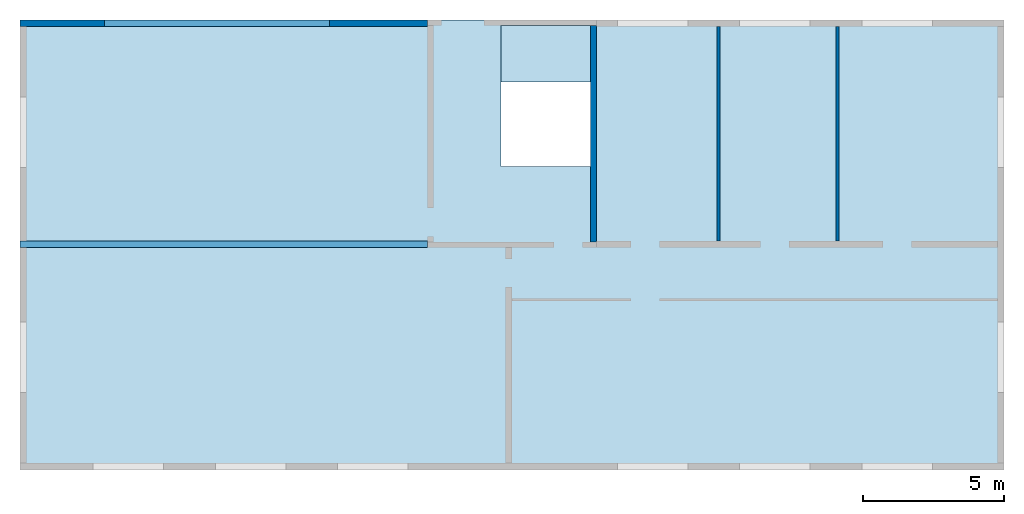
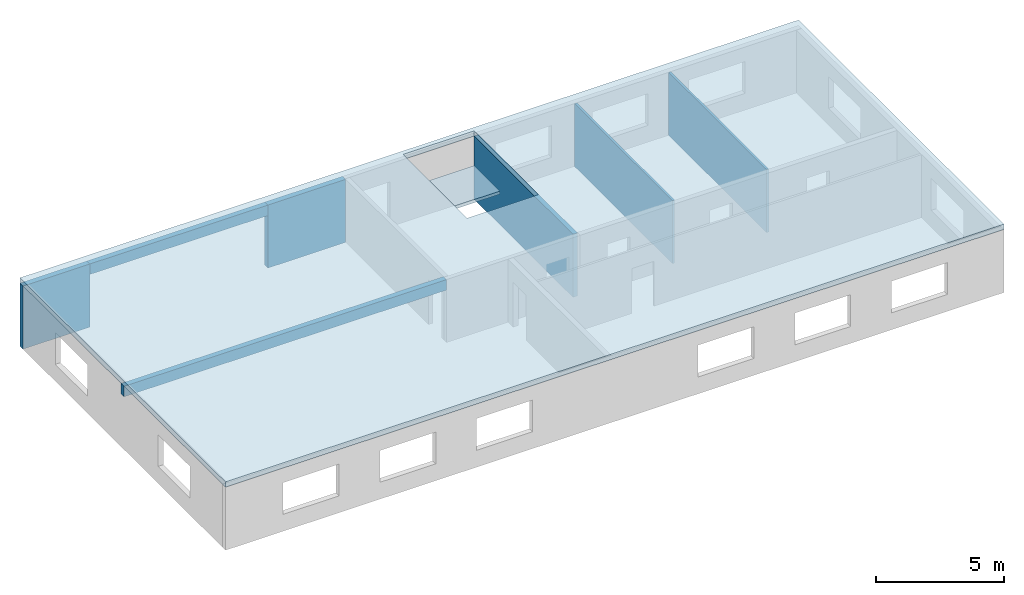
# One storey, incomplete: 5 walls, 2 beams, 2 slabs, 1 opening.
"""IFC4 building model written with IfcOpenShell, lengths in metres."""

from ifc_helpers import new_model, entity, si_unit, converted_unit, frame, origin_with_axes, origin_2d_with_axis, place, context, subcontext, project, spatial, line, indexed_curve, rectangle, outline, extrude, polygons, material, layer, layer_set, layer_usage, material_profile, profile_set, profile_usage, type_object, element, save


model = new_model("IFC4")

# Units and contexts
model_context = context("Model", 3, precision=1e-05, world=origin_with_axes())
plan_context = context("Plan", 2, precision=1e-05, world=origin_2d_with_axis())
body_context = subcontext(model_context, "Body", "Model", "MODEL_VIEW")
ifc_project = project(units=[converted_unit("PLANEANGLEUNIT", "degree", entity("IfcReal", 0.0174532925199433), si_unit("PLANEANGLEUNIT", "RADIAN"), dimensions=[0, 0, 0, 0, 0, 0, 0]), si_unit("AREAUNIT", "SQUARE_METRE"), si_unit("VOLUMEUNIT", "CUBIC_METRE"), si_unit("LENGTHUNIT", "METRE")], contexts=[model_context, plan_context])

# Site, building, storey
site_placement = place(None, origin_with_axes())
site = spatial("IfcSite", under=ifc_project, at=site_placement, Name="My Site")
building_placement = place(site_placement, origin_with_axes())
building = spatial("IfcBuilding", under=site, at=building_placement, Name="Werkhalle")
storey_placement = place(building_placement, origin_with_axes())
storey = spatial("IfcBuildingStorey", under=building, at=storey_placement, Name="02 Erdgeschoss")

# Beams
ifc_material_1 = material(Name="C 25/30", Category="Beton")
ifc_material_profile = material_profile(ifc_material_1, rectangle(XDim=0.239999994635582, YDim=0.5))
ifc_profile_set = profile_set([ifc_material_profile], Name="Beton 24 / 50")
ifc_profile_usage_1 = profile_usage(ifc_profile_set, cardinal=3)
beam_type = type_object("IfcBeamType", Name="Unterzug", PredefinedType="NOTDEFINED", material=ifc_profile_set)
beam_1_placement = place(storey_placement, frame((0.0, 7.90000009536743, 2.5), z_axis=(0.999999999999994, -7.54979012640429e-08, 7.54979012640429e-08), x_axis=(7.54979012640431e-08, 0.999999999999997, 7.16093850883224e-15)))
element("IfcBeam", 1, at=beam_1_placement, inside=storey, type_object=beam_type, material=ifc_profile_usage_1, Name="Unterzug Halle", context=body_context, shape_type="SweptSolid", body=[
    extrude(rectangle(XDim=0.239999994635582, YDim=0.5), frame((0.119999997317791, 0.25, 0.0), z_axis=(0.0, 0.0, 1.0), x_axis=(1.0, 0.0, 0.0)), (0.0, 0.0, 1.0), 14.5000000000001),
])
ifc_profile_usage_2 = profile_usage(ifc_profile_set, cardinal=3)
beam_2_placement = place(storey_placement, frame((2.5, 15.7600002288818, 2.5), z_axis=(0.999999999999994, -7.54979012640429e-08, 7.54979012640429e-08), x_axis=(7.54979012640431e-08, 0.999999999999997, 7.16093850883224e-15)))
element("IfcBeam", 2, at=beam_2_placement, inside=storey, type_object=beam_type, material=ifc_profile_usage_2, Name="Unterzug Tor", context=body_context, shape_type="SweptSolid", body=[
    extrude(rectangle(XDim=0.239999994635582, YDim=0.5), frame((0.119999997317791, 0.25, 0.0), z_axis=(0.0, 0.0, 1.0), x_axis=(1.0, 0.0, 0.0)), (0.0, 0.0, 1.0), 9.00000000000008),
])

# Slab
ifc_layer_1 = layer(ifc_material_1, 0.150000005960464)
ifc_layer_set_1 = layer_set([ifc_layer_1], Name="Beton 15 cm")
ifc_layer_usage_1 = layer_usage(ifc_layer_set_1, "AXIS3", "POSITIVE", 0.0)
slab_type_1 = type_object("IfcSlabType", Name="Podestplatte", PredefinedType="NOTDEFINED", material=ifc_layer_set_1)
slab_1_placement = place(storey_placement, frame((17.1003494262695, 13.7972583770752, 1.45000004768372), z_axis=(0.0, 0.0, 1.0), x_axis=(1.0, 0.0, 0.0)))
element("IfcSlab", 3, at=slab_1_placement, inside=storey, type_object=slab_type_1, material=ifc_layer_usage_1, Name="Podestplatte", PredefinedType="LANDING", context=body_context, shape_type="SweptSolid", body=[
    extrude(outline(indexed_curve([(0.0, 0.0), (3.20000004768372, 0.0), (3.20000004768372, 2.0), (0.0, 2.0)], segments=[line(4, 1), line(1, 2), line(2, 3), line(3, 4)], self_intersect=False)), None, (0.0, 0.0, 1.0), 0.150000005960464),
])

# Slab, opening
ifc_layer_2 = layer(ifc_material_1, 0.25)
ifc_layer_set_2 = layer_set([ifc_layer_2], Name="Beton 25 cm")
ifc_layer_usage_2 = layer_usage(ifc_layer_set_2, "AXIS3", "POSITIVE", 0.0)
slab_type_2 = type_object("IfcSlabType", Name="Beton 25 cm", PredefinedType="FLOOR", material=ifc_layer_set_2)
slab_2_placement = place(storey_placement, frame((0.0, 0.0, 3.0), z_axis=(0.0, 0.0, 1.0), x_axis=(1.0, 0.0, 0.0)))
slab_2 = element("IfcSlab", 4, at=slab_2_placement, inside=storey, type_object=slab_type_2, material=ifc_layer_usage_2, Name="Decke über EG", context=body_context, shape_type="SweptSolid", body=[
    extrude(outline(indexed_curve([(0.0, 0.0), (35.0, 0.0), (35.0, 16.0), (0.0, 16.0)], segments=[line(3, 2), line(2, 1), line(1, 4), line(4, 3)], self_intersect=False)), None, (0.0, 0.0, 1.0), 0.25),
])
opening_placement = place(slab_2_placement, frame((19.2003498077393, 13.2972583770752, -0.0470695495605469), z_axis=(0.0, 0.0, 1.0), x_axis=(1.0, 0.0, 0.0)))
element("IfcOpeningElement", 5, at=opening_placement, cuts=slab_2, Name="Würfel", context=body_context, shape_type="Tessellation", body=[
    polygons([(-2.09999990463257, -2.5, -1.0), (-2.09999990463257, 2.5, -1.0), (-2.09999990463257, -2.5, 1.0), (-2.09999990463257, 2.5, 1.0), (1.10000002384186, 2.5, -1.0), (1.10000002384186, 2.5, 1.0), (1.10000002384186, -2.5, -1.0), (1.10000002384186, -2.5, 1.0)], [[[1, 3, 4]], [[1, 4, 2]], [[6, 5, 2]], [[6, 2, 4]], [[8, 7, 5]], [[8, 5, 6]], [[7, 8, 3]], [[7, 3, 1]], [[2, 5, 7]], [[2, 7, 1]], [[6, 4, 3]], [[6, 3, 8]]]),
])

# Walls
ifc_layer_3 = layer(ifc_material_1, 0.200000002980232)
ifc_layer_set_3 = layer_set([ifc_layer_3], Name="Beton 20 cm")
ifc_layer_usage_3 = layer_usage(ifc_layer_set_3, "AXIS2", "POSITIVE", 0.0)
wall_type_1 = type_object("IfcWallType", Name="Beton", PredefinedType="NOTDEFINED", material=ifc_layer_set_3)
wall_1_placement = place(storey_placement, frame((20.5, 8.09999942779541, 0.0), z_axis=(0.0, 0.0, 1.0), x_axis=(3.13916473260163e-07, 0.999999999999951, 0.0)))
element("IfcWall", 6, at=wall_1_placement, inside=storey, type_object=wall_type_1, material=ifc_layer_usage_3, Name="Treppenhaus", context=body_context, shape_type="SweptSolid", body=[
    extrude(outline(indexed_curve([(0.0, 0.0), (0.0, 0.200000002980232), (7.70000080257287, 0.200000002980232), (7.70000080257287, 0.0), (0.0, 0.0)], self_intersect=False)), origin_with_axes(), (0.0, 0.0, 1.0), 3.0),
])
ifc_material_2 = material(Name="Kalksandstein", Category="Mauerwerk")
ifc_layer_4 = layer(ifc_material_2, 0.239999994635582)
ifc_layer_set_4 = layer_set([ifc_layer_4], Name="Kalksand 24 cm")
ifc_layer_usage_4 = layer_usage(ifc_layer_set_4, "AXIS2", "POSITIVE", 0.0)
wall_type_2 = type_object("IfcWallType", Name="Kalksandstein", PredefinedType="STANDARD", material=ifc_layer_set_4)
wall_2_placement = place(storey_placement, frame((0.0, 15.7600002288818, 0.0), z_axis=(0.0, 0.0, 1.0), x_axis=(1.0, 0.0, 0.0)))
element("IfcWall", 7, at=wall_2_placement, inside=storey, type_object=wall_type_2, material=ifc_layer_usage_4, Name="Wall", context=body_context, shape_type="SweptSolid", body=[
    extrude(outline(indexed_curve([(0.0, 0.0), (0.0, 0.239999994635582), (3.0, 0.239999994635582), (3.0, 0.0), (0.0, 0.0)], self_intersect=False)), origin_with_axes(), (0.0, 0.0, 1.0), 3.0),
])
ifc_layer_usage_5 = layer_usage(ifc_layer_set_4, "AXIS2", "POSITIVE", 0.0)
wall_3_placement = place(storey_placement, frame((11.0000019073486, 15.7600002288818, 0.0), z_axis=(0.0, 0.0, 1.0), x_axis=(1.0, 0.0, 0.0)))
element("IfcWall", 8, at=wall_3_placement, inside=storey, type_object=wall_type_2, material=ifc_layer_usage_5, Name="Wall", context=body_context, shape_type="SweptSolid", body=[
    extrude(outline(indexed_curve([(0.0, 0.0), (0.0, 0.239999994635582), (3.5, 0.239999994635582), (3.5, 0.0), (0.0, 0.0)], self_intersect=False)), origin_with_axes(), (0.0, 0.0, 1.0), 3.0),
])
ifc_material_3 = material(Name="Gipskarton", Category="Mauerwerk")
ifc_layer_5 = layer(ifc_material_3, 0.100000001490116)
ifc_layer_set_5 = layer_set([ifc_layer_5], Name="Trockenbau 10 cm")
ifc_layer_usage_6 = layer_usage(ifc_layer_set_5, "AXIS2", "POSITIVE", 0.0)
wall_type_3 = type_object("IfcWallType", Name="Trockenbau", PredefinedType="NOTDEFINED", material=ifc_layer_set_5)
wall_4_placement = place(storey_placement, frame((24.8945560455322, 8.14000034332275, 0.0), z_axis=(0.0, 0.0, 1.0), x_axis=(3.13916473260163e-07, 0.999999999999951, 0.0)))
element("IfcWall", 9, at=wall_4_placement, inside=storey, type_object=wall_type_3, material=ifc_layer_usage_6, Name="Trockenbau", context=body_context, shape_type="SweptSolid", body=[
    extrude(outline(indexed_curve([(0.0, 0.0), (0.0, 0.100000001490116), (7.61999998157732, 0.100000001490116), (7.61999998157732, 0.0), (0.0, 0.0)], self_intersect=False)), origin_with_axes(), (0.0, 0.0, 1.0), 3.0),
])
ifc_layer_usage_7 = layer_usage(ifc_layer_set_5, "AXIS2", "POSITIVE", 0.0)
wall_5_placement = place(storey_placement, frame((29.1250019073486, 8.14000034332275, 0.0), z_axis=(0.0, 0.0, 1.0), x_axis=(3.13916473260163e-07, 0.999999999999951, 0.0)))
element("IfcWall", 10, at=wall_5_placement, inside=storey, type_object=wall_type_3, material=ifc_layer_usage_7, Name="Trockenbau", context=body_context, shape_type="SweptSolid", body=[
    extrude(outline(indexed_curve([(0.0, 0.0), (0.0, 0.100000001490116), (7.61999998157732, 0.100000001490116), (7.61999998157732, 0.0), (0.0, 0.0)], self_intersect=False)), origin_with_axes(), (0.0, 0.0, 1.0), 3.0),
])

save(model, "model.ifc")
